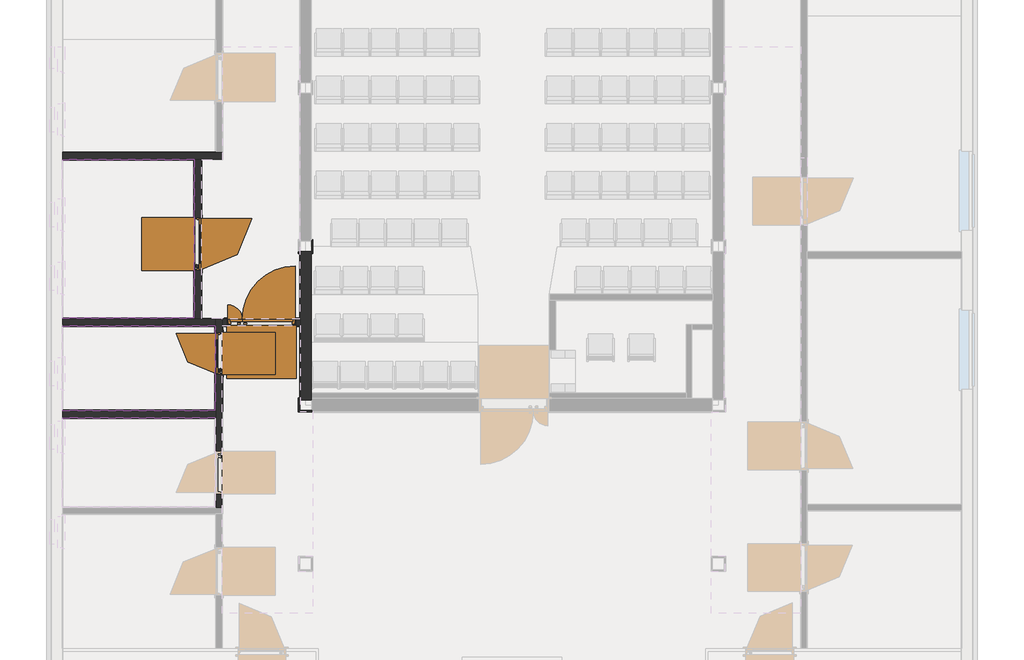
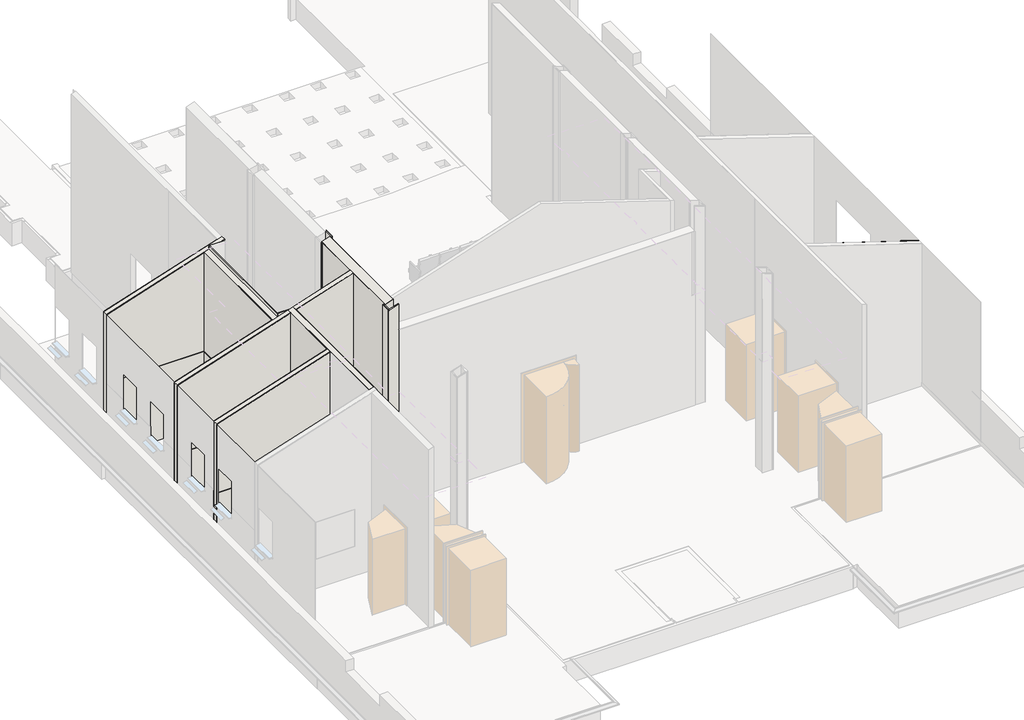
# One storey, part 4 of 12: 57 walls, 3 doors.
"""IFC4 building model written with IfcOpenShell, lengths in millimetres."""

from ifc_helpers import new_model, si_unit, frame, origin, origin_with_axes, place, context, project, spatial, polyline, outline, extrude, faceted_brep, transform, mapped, element, save
from components import door_607082e9, door_29457918, door_94be55c8

model = new_model("IFC4")

# Units and contexts
model_context = context("Model", 3, world=origin())
ifc_project = project(units=[si_unit("LENGTHUNIT", "METRE", prefix="MILLI")], contexts=[model_context])

# Site, building, storey
site = spatial("IfcSite", under=ifc_project)
building = spatial("IfcBuilding", under=site)
storey = spatial("IfcBuildingStorey", under=building, Name="Этаж 01", Elevation=0.0)

# Doors
placement = place(None, origin())
door_shape = door_607082e9(model_context)
element("IfcDoor", 1, ObjectType="Дверь_Деревянная_Внутренняя_Однопольная_ГОСТ_475-2016 : 0810 х 2070(h)_Л_с Порогом", at=placement, inside=storey, context=model_context, shape_type="MappedRepresentation", body=[
    mapped(door_shape, transform((2862.2198034, 9975.0, 0.0), x_axis=(0.0, 1.0, 0.0), y_axis=(-1.0, 0.0, 0.0), z_axis=(0.0, 0.0, 1.0))),
])
door_2_shape = door_29457918(model_context)
element("IfcDoor", 2, ObjectType="Дверь_Деревянная_Внутренняя_Однопольная_ГОСТ_475-2016 : 1010 х 2070(h)_Пр_с Порогом", at=placement, inside=storey, context=model_context, shape_type="MappedRepresentation", body=[
    mapped(door_2_shape, transform((2468.2165712, 12045.0, 0.0), x_axis=(0.0, -1.0, 0.0), y_axis=(1.0, 0.0, 0.0), z_axis=(0.0, 0.0, 1.0))),
])
door_3_shape = door_94be55c8(model_context)
element("IfcDoor", 3, ObjectType="Дверь_Деревянная_Внутренняя_Двупольная_ГОСТ_475-2016 : 1310 х 2370(h)_Л_с Порогом", at=placement, inside=storey, context=model_context, shape_type="MappedRepresentation", body=[
    mapped(door_3_shape, transform((3675.3948034, 10961.5, 0.0), x_axis=(-1.0, 0.0, 0.0), y_axis=(0.0, -1.0, 0.0), z_axis=(0.0, 0.0, 1.0))),
])

# Walls
element("IfcWall", 4, ObjectType="ADSK_Внутренняя_Кирпич_120", at=placement, inside=storey, context=model_context, shape_type="Brep", body=[
    faceted_brep([(2925.3948034, 7059.9969968, -25.0), (2925.3948034, 10630.0, -25.0), (2925.3948034, 10630.0, -20.0), (2925.3948034, 10630.0, 4831.1503758), (2925.3948034, 10505.0, 4831.1503758), (2925.3948034, 10504.0, 4831.1503758), (2925.3948034, 8875.0000003, 4831.1503758), (2925.3948034, 7059.9969968, 4831.1503758), (2925.3948034, 7059.9969968, -20.0), (2925.3948034, 10375.0, 2070.0), (2925.3948034, 10375.0, 0.0), (2925.3948034, 9575.0, 0.0), (2925.3948034, 9575.0, 2070.0), (2925.3948034, 8119.9998515, 2070.0), (2925.3948034, 8119.9998515, 0.0), (2925.3948034, 7319.9998515, 0.0), (2925.3948034, 7319.9998515, 2070.0), (2805.3948034, 10630.0, -25.0), (2805.3948034, 8890.0, -25.0), (2805.3948034, 8770.0, -25.0), (2805.3948034, 7059.9969968, -25.0), (2805.3948034, 7059.9969968, -20.0), (2805.3948034, 7059.9969968, 4792.1590792), (2805.3948034, 7072.1398515, 4792.1590792), (2805.3948034, 8770.0, 4792.1590792), (2805.3948034, 8890.0, 4792.1590792), (2805.3948034, 8902.0, 4792.1590792), (2805.3948034, 10510.0, 4792.1590792), (2805.3948034, 10630.0, 4792.1590792), (2805.3948034, 10630.0, -20.0), (2805.3948034, 10375.0, 0.0), (2805.3948034, 10375.0, 2070.0), (2805.3948034, 9575.0, 2070.0), (2805.3948034, 9575.0, 0.0), (2805.3948034, 8119.9998515, 0.0), (2805.3948034, 8119.9998515, 2070.0), (2805.3948034, 7319.9998515, 2070.0), (2805.3948034, 7319.9998515, 0.0)], [[[0, 1, 2, 3, 4, 5, 6, 7, 8], [9, 10, 11, 12], [13, 14, 15, 16]], [[17, 18, 19, 20, 21, 22, 23, 24, 25, 26, 27, 28, 29], [30, 31, 32, 33], [34, 35, 36, 37]], [[1, 0, 20, 19, 18, 17]], [[3, 2, 1, 17, 29, 28]], [[34, 14, 13, 35]], [[35, 13, 16, 36]], [[36, 16, 15, 37]], [[14, 34, 37, 15]], [[30, 10, 9, 31]], [[31, 9, 12, 32]], [[11, 33, 32, 12]], [[10, 30, 33, 11]], [[7, 6, 5, 4, 3, 28, 27, 26, 25, 24, 23, 22]], [[20, 0, 8, 7, 22, 21]]]),
])
element("IfcWall", 5, ObjectType="ADSK_Внутренняя_Кирпич_120", at=placement, inside=storey, context=model_context, shape_type="Brep", body=[
    faceted_brep([(-100.0, 10510.0, 100.0), (-92.0, 10510.0, 100.0), (-85.0, 10510.0, 100.0), (-85.0, 10510.0, -20.0), (2805.3948034, 10510.0, -20.0), (2805.3948034, 10510.0, 4792.1590792), (-100.0, 10510.0, 3848.1164919), (-100.0, 10510.0, 2000.0), (-85.0, 10630.0, 100.0), (-100.0, 10630.0, 100.0), (-100.0, 10630.0, 3848.1164919), (2405.0415712, 10630.0, 4662.0733157), (2525.0415712, 10630.0, 4701.0646123), (2805.3948034, 10630.0, 4792.1590792), (2805.3948034, 10630.0, -20.0), (-85.0, 10630.0, -20.0)], [[[0, 1, 2, 3, 4, 5, 6, 7]], [[8, 9, 10, 11, 12, 13, 14, 15]], [[13, 5, 4, 14]], [[9, 8, 2, 1, 0]], [[2, 8, 15, 3]], [[6, 5, 13, 12, 11, 10]], [[4, 3, 15, 14]], [[9, 0, 7, 6, 10]]]),
])
element("IfcWall", 6, ObjectType="ADSK_Внутренняя_Кирпич_120", at=placement, inside=storey, context=model_context, shape_type="Brep", body=[
    faceted_brep([(2525.0415712, 10630.0, -25.0), (2525.0415712, 13650.0024506, -25.0), (2525.0415712, 13650.0024506, 4701.0646123), (2525.0415712, 10630.0, 4701.0646123), (2525.0415712, 10630.0, 0.0), (2525.0415712, 11540.0, 0.0), (2525.0415712, 11540.0, 2070.0), (2525.0415712, 12550.0, 2070.0), (2525.0415712, 12550.0, 0.0), (2405.0415712, 13650.0024506, -25.0), (2405.0415712, 10630.0, -25.0), (2405.0415712, 10630.0, 4662.0733157), (2405.0415712, 10642.0, 4662.0733157), (2405.0415712, 13650.0024506, 4662.0733157), (2405.0415712, 13650.0024506, 0.0), (2405.0415712, 11540.0, 2070.0), (2405.0415712, 11540.0, 0.0), (2405.0415712, 12550.0, 0.0), (2405.0415712, 12550.0, 2070.0)], [[[0, 1, 2, 3, 4], [5, 6, 7, 8]], [[9, 10, 11, 12, 13, 14], [15, 16, 17, 18]], [[1, 0, 10, 9]], [[0, 4, 3, 11, 10]], [[2, 1, 9, 14, 13]], [[5, 16, 15, 6]], [[6, 15, 18, 7]], [[7, 18, 17, 8]], [[16, 5, 8, 17]], [[3, 2, 13, 12, 11]]]),
])
element("IfcWall", 7, ObjectType="ADSK_Внутренняя_Кирпич_120", at=placement, inside=storey, context=model_context, shape_type="Brep", body=[
    faceted_brep([(-100.0, 13650.0024506, 100.0), (-85.0, 13650.0024506, 100.0), (-85.0, 13650.0024506, -20.0), (2925.2572865, 13650.0024506, -20.0), (2925.2572865, 13650.0024506, 4831.1056928), (2525.0415712, 13650.0024506, 4701.0646123), (2405.0415712, 13650.0024506, 4662.0733157), (-100.0, 13650.0024506, 3848.1164919), (-85.0, 13770.0024506, 100.0), (-100.0, 13770.0024506, 100.0), (-100.0, 13770.0024506, 3848.1164919), (2805.2572865, 13770.0024506, 4792.1143962), (2925.2572865, 13770.0024506, 4831.1056928), (2925.2572865, 13770.0024506, -20.0), (2865.2572865, 13770.0024506, -20.0), (2865.2572865, 13770.0024506, -3.0), (2805.2572865, 13770.0024506, -3.0), (-85.0, 13770.0024506, -3.0), (-85.0, 13770.0024506, 0.0), (-85.0, 13710.0024506, -3.0), (-85.0, 13710.0024506, -20.0), (2865.2572865, 13710.0024506, -20.0), (2865.2572865, 13710.0024506, -3.0)], [[[0, 1, 2, 3, 4, 5, 6, 7]], [[8, 9, 10, 11, 12, 13, 14, 15, 16, 17, 18]], [[12, 4, 3, 13]], [[9, 8, 1, 0]], [[1, 8, 18, 17, 19, 20, 2]], [[7, 6, 5, 4, 12, 11, 10]], [[9, 0, 7, 10]], [[3, 2, 20, 21, 14, 13]], [[15, 22, 19, 17, 16]], [[21, 20, 19, 22]], [[22, 15, 14, 21]]]),
])
element("IfcWall", 8, ObjectType="ADSK_Внутренняя_Кирпич_120", at=placement, inside=storey, context=model_context, shape_type="Brep", body=[
    faceted_brep([(-100.0, 8770.0, 100.0), (-92.0, 8770.0, 100.0), (-85.0, 8770.0, 100.0), (-85.0, 8770.0, -20.0), (2805.3948034, 8770.0, -20.0), (2805.3948034, 8770.0, 4792.1590792), (-100.0, 8770.0, 3848.1164919), (-100.0, 8770.0, 2000.0), (-85.0, 8890.0, 100.0), (-100.0, 8890.0, 100.0), (-100.0, 8890.0, 2000.0), (-100.0, 8890.0, 3848.1164919), (2805.3948034, 8890.0, 4792.1590792), (2805.3948034, 8890.0, -20.0), (-85.0, 8890.0, -20.0)], [[[0, 1, 2, 3, 4, 5, 6, 7]], [[8, 9, 10, 11, 12, 13, 14]], [[12, 5, 4, 13]], [[9, 8, 2, 1, 0]], [[2, 8, 14, 3]], [[6, 5, 12, 11]], [[4, 3, 14, 13]], [[9, 0, 7, 6, 11, 10]]]),
])
element("IfcWall", 9, ObjectType="Перегородка-КНАУФ-С362-Применение внутри здания-125/75@600 ГВЛ(ГВЛВ)  12,5", at=placement, inside=storey, context=model_context, shape_type="Brep", body=[
    faceted_brep([(2925.3948034, 10505.0, -20.0), (4395.0630762, 10505.0, -20.0), (4395.0630762, 10505.0, 5308.6859716), (4394.0630762, 10505.0, 5308.3610442), (2925.3948034, 10505.0, 4831.1503758), (2925.3948034, 10505.0, 0.0), (3010.3948034, 10505.0, 0.0), (3010.3948034, 10505.0, 2370.0), (4320.3948034, 10505.0, 2370.0), (4320.3948034, 10505.0, 0.0), (4395.0630762, 10630.0, -20.0), (2925.3948034, 10630.0, -20.0), (2925.3948034, 10630.0, 0.0), (2925.3948034, 10630.0, 4831.1503758), (4395.0630762, 10630.0, 5308.6859716), (4395.0630762, 10630.0, 0.0), (3010.3948034, 10630.0, 2370.0), (3010.3948034, 10630.0, 0.0), (4320.3948034, 10630.0, 0.0), (4320.3948034, 10630.0, 2370.0)], [[[0, 1, 2, 3, 4, 5], [6, 7, 8, 9]], [[10, 11, 12, 13, 14, 15], [16, 17, 18, 19]], [[1, 0, 11, 10]], [[0, 5, 4, 13, 12, 11]], [[2, 1, 10, 15, 14]], [[6, 17, 16, 7]], [[7, 16, 19, 8]], [[8, 19, 18, 9]], [[17, 6, 9, 18]], [[4, 3, 2, 14, 13]]]),
])
element("IfcWall", 10, ObjectType="Перегородка-КНАУФ-С365-Применение внутри здания-200/75@600 ГВЛ(ГВЛВ)  12,5", at=placement, inside=storey, context=model_context, shape_type="Brep", body=[
    faceted_brep([(4395.0630762, 11900.0, -20.0), (4395.0630762, 10630.0, -20.0), (4395.0630762, 10505.0, -20.0), (4395.0630762, 9100.0, -20.0), (4395.0630762, 9100.0, 5308.6859716), (4395.0630762, 10505.0, 5308.6859716), (4395.0630762, 10630.0, 5308.6859716), (4395.0630762, 11900.0, 5308.6859716), (4605.0630762, 11900.0, 5376.9207407), (4605.0630762, 9225.0, 5376.9207407), (4605.0630762, 9125.0, 5376.9207407), (4605.0630762, 9100.0, 5376.9207407), (4605.0630762, 9100.0, -5.0), (4605.0630762, 11900.0, -5.0), (4500.0, 11900.0, -20.0), (4500.0, 9100.0, -20.0), (4500.0, 9100.0, -5.0), (4500.0, 11900.0, -5.0)], [[[0, 1, 2, 3, 4, 5, 6, 7]], [[8, 9, 10, 11, 12, 13]], [[3, 2, 1, 0, 14, 15]], [[4, 3, 15, 16, 12, 11]], [[0, 7, 8, 13, 17, 14]], [[7, 6, 5, 4, 11, 10, 9, 8]], [[16, 17, 13, 12]], [[17, 16, 15, 14]]]),
])
element("IfcWall", 11, ObjectType="Доска ДП-35", at=placement, inside=storey, context=model_context, shape_type="Brep", body=[
    faceted_brep([(7755.0, 9225.0, -5.0), (7755.0, 10167.4999997, -5.0), (7755.0, 10167.4999997, 325.0), (7755.0, 10184.9999997, 325.0), (7755.0, 10184.9999997, 505.0), (7755.0, 9225.0, 505.0), (7720.0, 9225.0, -5.0), (7720.0, 9225.0, 505.0), (7720.0, 10149.9999997, 505.0), (7720.0, 10184.9999997, 505.0), (7720.0, 10184.9999997, 325.0), (7720.0, 10167.4999997, 325.0), (7720.0, 10167.4999997, -5.0)], [[[0, 1, 2, 3, 4, 5]], [[6, 7, 8, 9, 10, 11, 12]], [[1, 0, 6, 12]], [[5, 4, 9, 8, 7]], [[2, 1, 12, 11]], [[10, 3, 2, 11]], [[4, 3, 10, 9]], [[0, 5, 7, 6]]]),
])
element("IfcWall", 12, ObjectType="Доска ДП-35", at=placement, inside=storey, context=model_context, shape_type="Brep", body=[
    faceted_brep([(7755.0, 11102.7675766, -5.0), (7607.4551117, 11999.9999997, -5.0), (7607.4551117, 11999.9999997, 145.0), (7755.0, 11102.7675766, 145.0), (7720.0, 11099.9089953, -5.0), (7720.0, 11099.9089953, 145.0), (7577.7405895, 11964.9999997, 145.0), (7571.9850339, 11999.9999997, 145.0), (7571.9850339, 11999.9999997, -5.0), (7577.7405895, 11964.9999997, -5.0)], [[[0, 1, 2, 3]], [[4, 5, 6, 7, 8, 9]], [[1, 0, 4, 9, 8]], [[3, 2, 7, 6, 5]], [[2, 1, 8, 7]], [[0, 3, 5, 4]]]),
])
element("IfcWall", 13, ObjectType="Доска ДП-35", at=placement, inside=storey, context=model_context, shape_type="SweptSolid", body=[
    extrude(outline(polyline([(4638.0630765, 11999.9999997), (7571.9850339, 11999.9999997), (7577.7405895, 11964.9999997), (4638.0630765, 11964.9999997), (4638.0630765, 11999.9999997)])), frame((0.0, 0.0, -5.0), z_axis=(0.0, 0.0, 1.0), x_axis=(1.0, 0.0, 0.0)), (0.0, 0.0, 1.0), 150.0),
])
element("IfcWall", 14, ObjectType="Доска ДП-35", at=placement, inside=storey, context=model_context, shape_type="SweptSolid", body=[
    extrude(outline(polyline([(4605.0630762, 11084.9999997), (7720.0, 11084.9999997), (7720.0, 11049.9999997), (4605.0630762, 11049.9999997), (4605.0630762, 11084.9999997)])), frame((0.0, 0.0, 180.0), z_axis=(0.0, 0.0, 1.0), x_axis=(1.0, 0.0, 0.0)), (0.0, 0.0, 1.0), 145.0),
])
element("IfcWall", 15, ObjectType="Доска ДП-35", at=placement, inside=storey, context=model_context, shape_type="Brep", body=[
    faceted_brep([(7720.0, 10184.9999997, 325.0), (4605.0630762, 10184.9999997, 325.0), (4605.0630762, 10184.9999997, 505.0), (7720.0, 10184.9999997, 505.0), (7720.0, 10149.9999997, 325.0), (7720.0, 10149.9999997, 505.0), (4605.0630762, 10149.9999997, 505.0), (4605.0630762, 10149.9999997, 325.0), (7720.0, 10167.4999997, 325.0)], [[[0, 1, 2, 3]], [[4, 5, 6, 7]], [[1, 0, 8, 4, 7]], [[3, 2, 6, 5]], [[0, 3, 5, 4, 8]], [[2, 1, 7, 6]]]),
])
element("IfcWall", 16, ObjectType="Доска ДП-35", at=placement, inside=storey, context=model_context, shape_type="Brep", body=[
    faceted_brep([(7755.0, 10167.4999997, -5.0), (7755.0, 11084.9999997, -5.0), (7755.0, 11084.9999997, 145.0), (7755.0, 11084.9999997, 325.0), (7755.0, 10184.9999997, 325.0), (7755.0, 10167.4999997, 325.0), (7720.0, 10167.4999997, -5.0), (7720.0, 10167.4999997, 325.0), (7720.0, 10184.9999997, 325.0), (7720.0, 11049.9999997, 325.0), (7720.0, 11084.9999997, 325.0), (7720.0, 11084.9999997, 180.0), (7720.0, 11084.9999997, 145.0), (7720.0, 11084.9999997, -5.0)], [[[0, 1, 2, 3, 4, 5]], [[6, 7, 8, 9, 10, 11, 12, 13]], [[1, 0, 6, 13]], [[3, 2, 1, 13, 12, 11, 10]], [[5, 4, 3, 10, 9, 8, 7]], [[0, 5, 7, 6]]]),
])
element("IfcWall", 17, ObjectType="Доска ДП-35", at=placement, inside=storey, context=model_context, shape_type="SweptSolid", body=[
    extrude(outline(polyline([(7720.0, 11099.9089953), (7755.0, 11102.7675766), (7755.0, 11084.9999997), (7720.0, 11084.9999997), (7720.0, 11099.9089953)])), frame((0.0, 0.0, -5.0), z_axis=(0.0, 0.0, 1.0), x_axis=(1.0, 0.0, 0.0)), (0.0, 0.0, 1.0), 150.0),
])
element("IfcWall", 18, ObjectType="Отделка - Акриловая покраска_1 мм_Улучш. штук. по кирп._9 мм", at=placement, inside=storey, context=model_context, shape_type="Brep", body=[
    faceted_brep([(-85.0, 13770.0024506, 0.0), (2805.2572865, 13770.0024506, 0.0), (2805.2572865, 13770.0024506, 4792.1143962), (-100.0, 13770.0024506, 3848.1164919), (-100.0, 13770.0024506, 100.0), (-85.0, 13770.0024506, 100.0), (1805.2572865, 13770.0024506, 1800.0), (2795.2572865, 13770.0024506, 1800.0), (2795.2572865, 13770.0024506, 800.0), (1805.2572865, 13770.0024506, 800.0), (-85.0, 13780.0024506, 0.0), (-85.0, 13780.0024506, 100.0), (-99.0, 13780.0024506, 100.0), (-100.0, 13780.0024506, 100.0), (-100.0, 13780.0024506, 3848.1164919), (-99.0, 13780.0024506, 3848.4414193), (2795.2572865, 13780.0024506, 4788.8651214), (2805.2572865, 13780.0024506, 4792.1143962), (2805.2572865, 13780.0024506, 0.0), (2795.2572865, 13780.0024506, 0.0), (1805.2572865, 13780.0024506, 1800.0), (1805.2572865, 13780.0024506, 800.0), (2795.2572865, 13780.0024506, 800.0), (2795.2572865, 13780.0024506, 1800.0), (1805.2572865, 13778.0024506, 1800.0), (1805.2572865, 13778.0024506, 800.0)], [[[0, 1, 2, 3, 4, 5], [6, 7, 8, 9]], [[10, 11, 12, 13, 14, 15, 16, 17, 18, 19], [20, 21, 22, 23]], [[2, 1, 18, 17]], [[0, 5, 11, 10]], [[3, 14, 13, 4]], [[3, 2, 17, 16, 15, 14]], [[1, 0, 10, 19, 18]], [[4, 13, 12, 11, 5]], [[7, 6, 24, 20, 23]], [[9, 8, 22, 21, 25]], [[6, 9, 25, 21, 20, 24]], [[8, 7, 23, 22]]]),
])
element("IfcWall", 19, ObjectType="Отделка - Улучш. штук. по кирп._12 мм", at=placement, inside=storey, context=model_context, shape_type="Brep", body=[
    faceted_brep([(-100.0, 10630.0, 0.0), (2405.0415712, 10630.0, 0.0), (2405.0415712, 10630.0, 4662.0733157), (-100.0, 10630.0, 3848.1164919), (-100.0, 10642.0, 0.0), (-100.0, 10642.0, 100.0), (-100.0, 10642.0, 2000.0), (-100.0, 10642.0, 3848.1164919), (-99.0, 10642.0, 3848.4414193), (2393.0415712, 10642.0, 4658.1741861), (2405.0415712, 10642.0, 4662.0733157), (2405.0415712, 10642.0, 0.0), (2393.0415712, 10642.0, 0.0)], [[[0, 1, 2, 3]], [[4, 5, 6, 7, 8, 9, 10, 11, 12]], [[1, 0, 4, 12, 11]], [[0, 3, 7, 6, 5, 4]], [[2, 1, 11, 10]], [[3, 2, 10, 9, 8, 7]]]),
])
element("IfcWall", 20, ObjectType="Отделка - Улучш. штук. по кирп._12 мм", at=placement, inside=storey, context=model_context, shape_type="Brep", body=[
    faceted_brep([(2405.0415712, 13650.0024506, 0.0), (2405.0415712, 13650.0024506, 4662.0733157), (2405.0415712, 10642.0, 4662.0733157), (2405.0415712, 10642.0, 0.0), (2405.0415712, 11540.0, 0.0), (2405.0415712, 11540.0, 2070.0), (2405.0415712, 12550.0, 2070.0), (2405.0415712, 12550.0, 0.0), (2393.0415712, 13650.0024506, 4658.1741861), (2393.0415712, 13650.0024506, 0.0), (2393.0415712, 13638.0024506, 0.0), (2393.0415712, 13630.0024506, 0.0), (2393.0415712, 12591.35, 0.0), (2393.0415712, 12550.0, 0.0), (2393.0415712, 12550.0, 2000.0), (2393.0415712, 12550.0, 2070.0), (2393.0415712, 11540.0, 2070.0), (2393.0415712, 11540.0, 2000.0), (2393.0415712, 11540.0, 0.0), (2393.0415712, 11488.65, 0.0), (2393.0415712, 10642.0, 0.0), (2393.0415712, 10642.0, 2000.0), (2393.0415712, 10642.0, 4658.1741861), (2393.0415712, 13637.0024506, 4658.1741861), (2393.0415712, 13638.0024506, 4658.1741861)], [[[0, 1, 2, 3, 4, 5, 6, 7]], [[8, 9, 10, 11, 12, 13, 14, 15, 16, 17, 18, 19, 20, 21, 22, 23, 24]], [[9, 0, 7, 13, 12, 11, 10]], [[3, 20, 19, 18, 4]], [[1, 0, 9, 8]], [[3, 2, 22, 21, 20]], [[16, 5, 4, 18, 17]], [[5, 16, 15, 6]], [[6, 15, 14, 13, 7]], [[2, 1, 8, 24, 23, 22]]]),
])
element("IfcWall", 21, ObjectType="Отделка - Улучш. штук. по кирп._12 мм", at=placement, inside=storey, context=model_context, shape_type="Brep", body=[
    faceted_brep([(2393.0415712, 13650.0024506, 0.0), (-100.0, 13650.0024506, 0.0), (-100.0, 13650.0024506, 3848.1164919), (2393.0415712, 13650.0024506, 4658.1741861), (2393.0415712, 13638.0024506, 0.0), (2393.0415712, 13638.0024506, 4658.1741861), (-99.0, 13638.0024506, 3848.4414193), (-100.0, 13638.0024506, 3848.1164919), (-100.0, 13638.0024506, 2000.0), (-100.0, 13638.0024506, 0.0)], [[[0, 1, 2, 3]], [[4, 5, 6, 7, 8, 9]], [[1, 0, 4, 9]], [[2, 1, 9, 8, 7]], [[0, 3, 5, 4]], [[3, 2, 7, 6, 5]]]),
])
element("IfcWall", 22, ObjectType="Отделка - Керамическая плитка h=2 м", at=placement, inside=storey, context=model_context, shape_type="Brep", body=[
    faceted_brep([(2393.0415712, 13638.0024506, 0.0), (-85.0, 13638.0024506, 0.0), (-85.0, 13638.0024506, 100.0), (-100.0, 13638.0024506, 100.0), (-100.0, 13638.0024506, 2000.0), (2393.0415712, 13638.0024506, 2000.0), (2393.0415712, 13630.0024506, 0.0), (2393.0415712, 13630.0024506, 2000.0), (2385.0415712, 13630.0024506, 2000.0), (-100.0, 13630.0024506, 2000.0), (-100.0, 13630.0024506, 100.0), (-85.0, 13630.0024506, 100.0), (-85.0, 13630.0024506, 0.0), (2385.0415712, 13630.0024506, 0.0), (2393.0415712, 13637.0024506, 2000.0)], [[[0, 1, 2, 3, 4, 5]], [[6, 7, 8, 9, 10, 11, 12, 13]], [[1, 0, 6, 13, 12]], [[5, 4, 9, 8, 7, 14]], [[10, 3, 2, 11]], [[2, 1, 12, 11]], [[3, 10, 9, 4]], [[0, 5, 14, 7, 6]]]),
])
element("IfcWall", 23, ObjectType="Отделка - Керамическая плитка h=2 м", at=placement, inside=storey, context=model_context, shape_type="Brep", body=[
    faceted_brep([(2393.0415712, 13630.0024506, 2000.0), (2393.0415712, 12591.35, 2000.0), (2393.0415712, 12591.35, 0.0), (2393.0415712, 13630.0024506, 0.0), (2385.0415712, 12591.35, 2000.0), (2385.0415712, 13630.0024506, 2000.0), (2385.0415712, 13630.0024506, 0.0), (2385.0415712, 12591.35, 0.0)], [[[0, 1, 2, 3]], [[4, 5, 6, 7]], [[0, 3, 6, 5]], [[1, 0, 5, 4]], [[2, 1, 4, 7]], [[3, 2, 7, 6]]]),
    faceted_brep([(2393.0415712, 10642.0, 0.0), (2393.0415712, 11488.65, 0.0), (2393.0415712, 11488.65, 2000.0), (2393.0415712, 10642.0, 2000.0), (2385.0415712, 11488.65, 0.0), (2385.0415712, 10650.0, 0.0), (2385.0415712, 10642.0, 0.0), (2385.0415712, 10642.0, 2000.0), (2385.0415712, 10650.0, 2000.0), (2385.0415712, 11488.65, 2000.0), (2392.0415712, 10642.0, 2000.0)], [[[0, 1, 2, 3]], [[4, 5, 6, 7, 8, 9]], [[0, 3, 10, 7, 6]], [[1, 0, 6, 5, 4]], [[2, 1, 4, 9]], [[3, 2, 9, 8, 7, 10]]]),
])
element("IfcWall", 24, ObjectType="Отделка - Керамическая плитка h=2 м", at=placement, inside=storey, context=model_context, shape_type="SweptSolid", body=[
    extrude(outline(polyline([(0.0, -85.0), (0.0, 2385.0415712), (2000.0, 2385.0415712), (2000.0, -100.0), (100.0, -100.0), (100.0, -85.0), (0.0, -85.0)])), frame((0.0, 10642.0, 0.0), z_axis=(0.0, 1.0, 0.0), x_axis=(0.0, 0.0, 1.0)), (0.0, 0.0, 1.0), 8.0),
])
element("IfcWall", 25, ObjectType="Отделка - Акриловая покраска_1 мм", at=placement, inside=storey, context=model_context, shape_type="Brep", body=[
    faceted_brep([(2393.0415712, 13638.0024506, 2000.0), (-100.0, 13638.0024506, 2000.0), (-100.0, 13638.0024506, 3848.1164919), (2393.0415712, 13638.0024506, 4658.1741861), (2393.0415712, 13637.0024506, 2000.0), (2393.0415712, 13637.0024506, 4658.1741861), (2392.0415712, 13637.0024506, 4657.8492586), (-100.0, 13637.0024506, 3848.1164919), (-100.0, 13637.0024506, 2000.0), (2392.0415712, 13637.0024506, 2000.0)], [[[0, 1, 2, 3]], [[4, 5, 6, 7, 8, 9]], [[1, 0, 4, 9, 8]], [[0, 3, 5, 4]], [[2, 1, 8, 7]], [[3, 2, 7, 6, 5]]]),
])
element("IfcWall", 26, ObjectType="Отделка - Акриловая покраска_1 мм", at=placement, inside=storey, context=model_context, shape_type="Brep", body=[
    faceted_brep([(2393.0415712, 13637.0024506, 2000.0), (2393.0415712, 13637.0024506, 4658.1741861), (2393.0415712, 10642.0, 4658.1741861), (2393.0415712, 10642.0, 2000.0), (2393.0415712, 11540.0, 2000.0), (2393.0415712, 11540.0, 2070.0), (2393.0415712, 12550.0, 2070.0), (2393.0415712, 12550.0, 2000.0), (2393.0415712, 13630.0024506, 2000.0), (2392.0415712, 13637.0024506, 4657.8492586), (2392.0415712, 13637.0024506, 2000.0), (2392.0415712, 12550.0, 2000.0), (2392.0415712, 12550.0, 2070.0), (2392.0415712, 11540.0, 2070.0), (2392.0415712, 11540.0, 2000.0), (2392.0415712, 10643.0, 2000.0), (2392.0415712, 10642.0, 2000.0), (2392.0415712, 10642.0, 4657.8492586), (2392.0415712, 10643.0, 4657.8492586)], [[[0, 1, 2, 3, 4, 5, 6, 7, 8]], [[9, 10, 11, 12, 13, 14, 15, 16, 17, 18]], [[10, 0, 8, 7, 11]], [[3, 16, 15, 14, 4]], [[1, 0, 10, 9]], [[3, 2, 17, 16]], [[13, 5, 4, 14]], [[5, 13, 12, 6]], [[6, 12, 11, 7]], [[2, 1, 9, 18, 17]]]),
])
element("IfcWall", 27, ObjectType="Отделка - Акриловая покраска_1 мм", at=placement, inside=storey, context=model_context, shape_type="Brep", body=[
    faceted_brep([(-100.0, 10642.0, 2000.0), (2385.0415712, 10642.0, 2000.0), (2392.0415712, 10642.0, 2000.0), (2392.0415712, 10642.0, 4657.8492586), (-100.0, 10642.0, 3848.1164919), (-100.0, 10643.0, 2000.0), (-100.0, 10643.0, 3848.1164919), (2392.0415712, 10643.0, 4657.8492586), (2392.0415712, 10643.0, 2000.0)], [[[0, 1, 2, 3, 4]], [[5, 6, 7, 8]], [[2, 1, 0, 5, 8]], [[3, 2, 8, 7]], [[0, 4, 6, 5]], [[4, 3, 7, 6]]]),
])
element("IfcWall", 28, ObjectType="Отделка - Улучш. штук. по кирп._12 мм", at=placement, inside=storey, context=model_context, shape_type="Brep", body=[
    faceted_brep([(-85.0, 8890.0, 0.0), (2805.3948034, 8890.0, 0.0), (2805.3948034, 8890.0, 4792.1590792), (-100.0, 8890.0, 3848.1164919), (-100.0, 8890.0, 100.0), (-85.0, 8890.0, 100.0), (-85.0, 8902.0, 0.0), (-85.0, 8902.0, 100.0), (-100.0, 8902.0, 100.0), (-100.0, 8902.0, 3848.1164919), (2793.3948034, 8902.0, 4788.2599495), (2805.3948034, 8902.0, 4792.1590792), (2805.3948034, 8902.0, 0.0), (2793.3948034, 8902.0, 0.0)], [[[0, 1, 2, 3, 4, 5]], [[6, 7, 8, 9, 10, 11, 12, 13]], [[1, 0, 6, 13, 12]], [[2, 1, 12, 11]], [[4, 8, 7, 5]], [[0, 5, 7, 6]], [[3, 9, 8, 4]], [[3, 2, 11, 10, 9]]]),
])
element("IfcWall", 29, ObjectType="Отделка - Улучш. штук. по кирп._12 мм", at=placement, inside=storey, context=model_context, shape_type="Brep", body=[
    faceted_brep([(2805.3948034, 10510.0, 0.0), (2805.3948034, 10510.0, 4792.1590792), (2805.3948034, 8902.0, 4792.1590792), (2805.3948034, 8902.0, 0.0), (2805.3948034, 9575.0, 0.0), (2805.3948034, 9575.0, 2070.0), (2805.3948034, 10375.0, 2070.0), (2805.3948034, 10375.0, 0.0), (2793.3948034, 10510.0, 4788.2599495), (2793.3948034, 10510.0, 0.0), (2793.3948034, 10498.0, 0.0), (2793.3948034, 10490.0, 0.0), (2793.3948034, 10421.35, 0.0), (2793.3948034, 10375.0, 0.0), (2793.3948034, 10375.0, 2000.0), (2793.3948034, 10375.0, 2070.0), (2793.3948034, 9575.0, 2070.0), (2793.3948034, 9575.0, 2000.0), (2793.3948034, 9575.0, 0.0), (2793.3948034, 9528.65, 0.0), (2793.3948034, 8910.0, 0.0), (2793.3948034, 8902.0, 0.0), (2793.3948034, 8902.0, 2000.0), (2793.3948034, 8902.0, 4788.2599495), (2793.3948034, 10497.0, 4788.2599495), (2793.3948034, 10498.0, 4788.2599495)], [[[0, 1, 2, 3, 4, 5, 6, 7]], [[8, 9, 10, 11, 12, 13, 14, 15, 16, 17, 18, 19, 20, 21, 22, 23, 24, 25]], [[9, 0, 7, 13, 12, 11, 10]], [[3, 21, 20, 19, 18, 4]], [[1, 0, 9, 8]], [[3, 2, 23, 22, 21]], [[6, 15, 14, 13, 7]], [[15, 6, 5, 16]], [[16, 5, 4, 18, 17]], [[2, 1, 8, 25, 24, 23]]]),
])
element("IfcWall", 30, ObjectType="Отделка - Улучш. штук. по кирп._12 мм", at=placement, inside=storey, context=model_context, shape_type="SweptSolid", body=[
    extrude(outline(polyline([(0.0, 2793.3948034), (4788.2599495, 2793.3948034), (3848.1164919, -100.0), (100.0, -100.0), (100.0, -85.0), (0.0, -85.0), (0.0, 2793.3948034)])), frame((0.0, 10498.0, 0.0), z_axis=(0.0, 1.0, 0.0), x_axis=(0.0, 0.0, 1.0)), (0.0, 0.0, 1.0), 12.0),
])
element("IfcWall", 31, ObjectType="Отделка - Керамическая плитка h=2 м", at=placement, inside=storey, context=model_context, shape_type="Brep", body=[
    faceted_brep([(2793.3948034, 10498.0, 0.0), (-85.0, 10498.0, 0.0), (-85.0, 10498.0, 2000.0), (2793.3948034, 10498.0, 2000.0), (2793.3948034, 10490.0, 0.0), (2793.3948034, 10490.0, 2000.0), (2785.3948034, 10490.0, 2000.0), (-85.0, 10490.0, 2000.0), (-85.0, 10490.0, 0.0), (2785.3948034, 10490.0, 0.0), (2793.3948034, 10497.0, 2000.0)], [[[0, 1, 2, 3]], [[4, 5, 6, 7, 8, 9]], [[1, 0, 4, 9, 8]], [[3, 2, 7, 6, 5, 10]], [[0, 3, 10, 5, 4]], [[2, 1, 8, 7]]]),
])
element("IfcWall", 32, ObjectType="Отделка - Керамическая плитка h=2 м", at=placement, inside=storey, context=model_context, shape_type="SweptSolid", body=[
    extrude(outline(polyline([(2793.3948034, 10490.0), (2793.3948034, 10421.35), (2785.3948034, 10421.35), (2785.3948034, 10490.0), (2793.3948034, 10490.0)])), origin_with_axes(), (0.0, 0.0, 1.0), 2000.0),
    extrude(outline(polyline([(2793.3948034, 9528.65), (2793.3948034, 8910.0), (2785.3948034, 8910.0), (2785.3948034, 9528.65), (2793.3948034, 9528.65)])), origin_with_axes(), (0.0, 0.0, 1.0), 2000.0),
])
element("IfcWall", 33, ObjectType="Отделка - Керамическая плитка h=2 м", at=placement, inside=storey, context=model_context, shape_type="Brep", body=[
    faceted_brep([(-85.0, 8902.0, 0.0), (2793.3948034, 8902.0, 0.0), (2793.3948034, 8902.0, 2000.0), (-100.0, 8902.0, 2000.0), (-100.0, 8902.0, 100.0), (-85.0, 8902.0, 100.0), (-85.0, 8910.0, 0.0), (-85.0, 8910.0, 100.0), (-92.0, 8910.0, 100.0), (-100.0, 8910.0, 100.0), (-100.0, 8910.0, 2000.0), (-92.0, 8910.0, 2000.0), (2785.3948034, 8910.0, 2000.0), (2793.3948034, 8910.0, 2000.0), (2793.3948034, 8910.0, 0.0), (2785.3948034, 8910.0, 0.0)], [[[0, 1, 2, 3, 4, 5]], [[6, 7, 8, 9, 10, 11, 12, 13, 14, 15]], [[1, 0, 6, 15, 14]], [[3, 2, 13, 12, 11, 10]], [[2, 1, 14, 13]], [[4, 9, 8, 7, 5]], [[0, 5, 7, 6]], [[3, 10, 9, 4]]]),
])
element("IfcWall", 34, ObjectType="Отделка - Акриловая покраска_1 мм", at=placement, inside=storey, context=model_context, shape_type="Brep", body=[
    faceted_brep([(2793.3948034, 10498.0, 2000.0), (-99.5, 10498.0, 2000.0), (-99.5, 10498.0, 3848.2789556), (2793.3948034, 10498.0, 4788.2599495), (2793.3948034, 10497.0, 2000.0), (2793.3948034, 10497.0, 4788.2599495), (2792.3948034, 10497.0, 4787.935022), (-99.5, 10497.0, 3848.2789556), (-99.5, 10497.0, 2000.0), (2792.3948034, 10497.0, 2000.0)], [[[0, 1, 2, 3]], [[4, 5, 6, 7, 8, 9]], [[1, 0, 4, 9, 8]], [[2, 1, 8, 7]], [[0, 3, 5, 4]], [[3, 2, 7, 6, 5]]]),
])
element("IfcWall", 35, ObjectType="Отделка - Акриловая покраска_1 мм", at=placement, inside=storey, context=model_context, shape_type="Brep", body=[
    faceted_brep([(2793.3948034, 10497.0, 2000.0), (2793.3948034, 10497.0, 4788.2599495), (2793.3948034, 8902.0, 4788.2599495), (2793.3948034, 8902.0, 2000.0), (2793.3948034, 9575.0, 2000.0), (2793.3948034, 9575.0, 2070.0), (2793.3948034, 10375.0, 2070.0), (2793.3948034, 10375.0, 2000.0), (2793.3948034, 10490.0, 2000.0), (2792.3948034, 10497.0, 4787.935022), (2792.3948034, 10497.0, 2000.0), (2792.3948034, 10375.0, 2000.0), (2792.3948034, 10375.0, 2070.0), (2792.3948034, 9575.0, 2070.0), (2792.3948034, 9575.0, 2000.0), (2792.3948034, 8903.0, 2000.0), (2792.3948034, 8902.0, 2000.0), (2792.3948034, 8902.0, 4787.935022), (2792.3948034, 8903.0, 4787.935022)], [[[0, 1, 2, 3, 4, 5, 6, 7, 8]], [[9, 10, 11, 12, 13, 14, 15, 16, 17, 18]], [[3, 16, 15, 14, 4]], [[10, 0, 8, 7, 11]], [[1, 0, 10, 9]], [[3, 2, 17, 16]], [[6, 12, 11, 7]], [[12, 6, 5, 13]], [[13, 5, 4, 14]], [[2, 1, 9, 18, 17]]]),
])
element("IfcWall", 36, ObjectType="Отделка - Акриловая покраска_1 мм", at=placement, inside=storey, context=model_context, shape_type="SweptSolid", body=[
    extrude(outline(polyline([(2000.0, -99.0), (2000.0, 2792.3948034), (4787.935022, 2792.3948034), (3848.4414193, -99.0), (2000.0, -99.0)])), frame((0.0, 8902.0, 0.0), z_axis=(0.0, 1.0, 0.0), x_axis=(0.0, 0.0, 1.0)), (0.0, 0.0, 1.0), 1.0),
])
element("IfcWall", 37, ObjectType="Отделка - Улучш. штук. по кирп._12 мм", at=placement, inside=storey, context=model_context, shape_type="SweptSolid", body=[
    extrude(outline(polyline([(0.0, 2793.3948034), (4788.2599495, 2793.3948034), (3848.1164919, -100.0), (0.0, -100.0), (0.0, 2793.3948034)])), frame((0.0, 8758.0, 0.0), z_axis=(0.0, 1.0, 0.0), x_axis=(0.0, 0.0, 1.0)), (0.0, 0.0, 1.0), 12.0),
])
element("IfcWall", 38, ObjectType="Отделка - Керамическая плитка h=2 м", at=placement, inside=storey, context=model_context, shape_type="Brep", body=[
    faceted_brep([(2793.3948034, 8758.0, 0.0), (-85.0, 8758.0, 0.0), (-85.0, 8758.0, 2000.0), (2793.3948034, 8758.0, 2000.0), (2793.3948034, 8750.0, 0.0), (2793.3948034, 8750.0, 2000.0), (2785.3948034, 8750.0, 2000.0), (-85.0, 8750.0, 2000.0), (-85.0, 8750.0, 0.0), (2785.3948034, 8750.0, 0.0), (2793.3948034, 8757.0, 2000.0)], [[[0, 1, 2, 3]], [[4, 5, 6, 7, 8, 9]], [[1, 0, 4, 9, 8]], [[3, 2, 7, 6, 5, 10]], [[0, 3, 10, 5, 4]], [[2, 1, 8, 7]]]),
])
element("IfcWall", 39, ObjectType="Отделка - Акриловая покраска_1 мм", at=placement, inside=storey, context=model_context, shape_type="Brep", body=[
    faceted_brep([(2793.3948034, 8758.0, 2000.0), (-99.0, 8758.0, 2000.0), (-99.0, 8758.0, 3848.4414193), (2793.3948034, 8758.0, 4788.2599495), (2793.3948034, 8757.0, 2000.0), (2793.3948034, 8757.0, 4788.2599495), (2792.3948034, 8757.0, 4787.935022), (-99.0, 8757.0, 3848.4414193), (-99.0, 8757.0, 2000.0), (2792.3948034, 8757.0, 2000.0)], [[[0, 1, 2, 3]], [[4, 5, 6, 7, 8, 9]], [[1, 0, 4, 9, 8]], [[0, 3, 5, 4]], [[2, 1, 8, 7]], [[3, 2, 7, 6, 5]]]),
])
element("IfcWall", 40, ObjectType="Отделка - Акриловая покраска_1 мм_Улучш. штук. по кирп._9 мм", at=placement, inside=storey, context=model_context, shape_type="Brep", body=[
    faceted_brep([(2525.0415712, 10630.0, 4792.1143962), (2525.0415712, 13640.0024506, 4792.1143962), (2525.0415712, 13640.0024506, 0.0), (2525.0415712, 12550.0, 0.0), (2525.0415712, 12550.0, 2070.0), (2525.0415712, 11540.0, 2070.0), (2525.0415712, 11540.0, 0.0), (2525.0415712, 10630.0, 0.0), (2525.0415712, 10630.0, 4701.0646123), (2535.0415712, 13640.0024506, 4792.1143962), (2535.0415712, 10640.0, 4792.1143962), (2535.0415712, 10630.0, 4792.1143962), (2535.0415712, 10630.0, 0.0), (2535.0415712, 10640.0, 0.0), (2535.0415712, 11540.0, 0.0), (2535.0415712, 11540.0, 2070.0), (2535.0415712, 12550.0, 2070.0), (2535.0415712, 12550.0, 0.0), (2535.0415712, 13640.0024506, 0.0)], [[[0, 1, 2, 3, 4, 5, 6, 7, 8]], [[9, 10, 11, 12, 13, 14, 15, 16, 17, 18]], [[12, 7, 6, 14, 13]], [[2, 18, 17, 3]], [[1, 0, 11, 10, 9]], [[0, 8, 7, 12, 11]], [[2, 1, 9, 18]], [[5, 15, 14, 6]], [[15, 5, 4, 16]], [[16, 4, 3, 17]]]),
])
element("IfcWall", 41, ObjectType="Отделка - Акриловая покраска_1 мм_Улучш. штук. по кирп._9 мм", at=placement, inside=storey, context=model_context, shape_type="Brep", body=[
    faceted_brep([(2535.0415712, 10630.0, 0.0), (2925.3948034, 10630.0, 0.0), (2925.3948034, 10630.0, 4792.1143962), (2535.0415712, 10630.0, 4792.1143962), (2535.0415712, 10640.0, 0.0), (2535.0415712, 10640.0, 4792.1143962), (2925.3948034, 10640.0, 4792.1143962), (2925.3948034, 10640.0, 0.0), (2925.3948034, 10631.0, 0.0)], [[[0, 1, 2, 3]], [[4, 5, 6, 7]], [[1, 0, 4, 7, 8]], [[2, 1, 8, 7, 6]], [[3, 2, 6, 5]], [[0, 3, 5, 4]]]),
])
element("IfcWall", 42, ObjectType="Отделка - Акриловая покраска по Кнауф-суперлистам_1 мм", at=placement, inside=storey, context=model_context, shape_type="Brep", body=[
    faceted_brep([(2925.3948034, 10630.0, 4831.1503758), (2925.3948034, 10630.0, 4792.1143962), (2925.3948034, 10630.0, 0.0), (3010.3948034, 10630.0, 0.0), (3010.3948034, 10630.0, 2370.0), (4320.3948034, 10630.0, 2370.0), (4320.3948034, 10630.0, 0.0), (4395.0630762, 10630.0, 0.0), (4395.0630762, 10630.0, 5308.6859716), (2925.3948034, 10631.0, 0.0), (2925.3948034, 10631.0, 4831.1503758), (4394.0630762, 10631.0, 5308.3610442), (4395.0630762, 10631.0, 5308.6859716), (4395.0630762, 10631.0, 0.0), (4394.0630762, 10631.0, 0.0), (4320.3948034, 10631.0, 0.0), (4320.3948034, 10631.0, 2370.0), (3010.3948034, 10631.0, 2370.0), (3010.3948034, 10631.0, 0.0)], [[[0, 1, 2, 3, 4, 5, 6, 7, 8]], [[9, 10, 11, 12, 13, 14, 15, 16, 17, 18]], [[2, 9, 18, 3]], [[13, 7, 6, 15, 14]], [[2, 1, 0, 10, 9]], [[17, 4, 3, 18]], [[4, 17, 16, 5]], [[5, 16, 15, 6]], [[0, 8, 12, 11, 10]], [[8, 7, 13, 12]]]),
])
element("IfcWall", 43, ObjectType="Отделка - Акриловая покраска по Кнауф-суперлистам_1 мм", at=placement, inside=storey, context=model_context, shape_type="Brep", body=[
    faceted_brep([(4395.0630762, 10631.0, 0.0), (4395.0630762, 11867.5, 0.0), (4395.0630762, 11867.5, 5308.6859716), (4395.0630762, 10631.0, 5308.6859716), (4394.0630762, 10631.0, 0.0), (4394.0630762, 10631.0, 5308.3610442), (4394.0630762, 11866.5, 5308.3610442), (4394.0630762, 11867.5, 5308.3610442), (4394.0630762, 11867.5, 0.0), (4394.0630762, 11866.5, 0.0)], [[[0, 1, 2, 3]], [[4, 5, 6, 7, 8, 9]], [[1, 0, 4, 9, 8]], [[3, 2, 7, 6, 5]], [[2, 1, 8, 7]], [[0, 3, 5, 4]]]),
])
element("IfcWall", 44, ObjectType="Отделка - Акриловая покраска по Кнауф-суперлистам_1 мм", at=placement, inside=storey, context=model_context, shape_type="Brep", body=[
    faceted_brep([(13981.0, 7125.0, 0.0), (16885.0, 7125.0, 0.0), (16885.0, 7125.0, 100.0), (16900.0, 7125.0, 100.0), (16900.0, 7125.0, 3848.1164919), (13981.0, 7125.0, 4796.5797813), (13981.0, 7126.0, 0.0), (13981.0, 7126.0, 4796.5797813), (16900.0, 7126.0, 3848.1164919), (16900.0, 7126.0, 100.0), (16899.0, 7126.0, 100.0), (16885.0, 7126.0, 100.0), (16885.0, 7126.0, 0.0)], [[[0, 1, 2, 3, 4, 5]], [[6, 7, 8, 9, 10, 11, 12]], [[1, 0, 6, 12]], [[9, 3, 2, 11, 10]], [[2, 1, 12, 11]], [[3, 9, 8, 4]], [[5, 4, 8, 7]], [[0, 5, 7, 6]]]),
])
element("IfcWall", 45, ObjectType="Облицовка КНАУФ 12,5", at=placement, inside=storey, context=model_context, shape_type="Brep", body=[
    faceted_brep([(4362.0630759, 11867.5, 0.0), (4395.0630762, 11867.5, 0.0), (4395.0630762, 11867.5, 5308.6859716), (4362.0630759, 11867.5, 5297.963365), (4362.0630759, 11892.5, 0.0), (4362.0630759, 11892.5, 5297.963365), (4387.0630759, 11892.5, 5306.0865518), (4395.0630762, 11892.5, 5308.6859716), (4395.0630762, 11892.5, 0.0), (4387.0630759, 11892.5, 0.0)], [[[0, 1, 2, 3]], [[4, 5, 6, 7, 8, 9]], [[1, 0, 4, 9, 8]], [[2, 1, 8, 7]], [[0, 3, 5, 4]], [[3, 2, 7, 6, 5]]]),
])
element("IfcWall", 46, ObjectType="Облицовка КНАУФ 12,5", at=placement, inside=storey, context=model_context, shape_type="Brep", body=[
    faceted_brep([(4613.0630765, 12107.5, 0.0), (4613.0630765, 11892.5, 0.0), (4613.0630765, 11867.5, 0.0), (4613.0630765, 11867.5, 5379.5201605), (4613.0630765, 11892.5, 5379.5201605), (4613.0630765, 12107.5, 5379.5201605), (4638.0630765, 12107.5, 0.0), (4638.0630765, 12107.5, 5387.6433473), (4638.0630765, 11867.5, 5387.6433473), (4638.0630765, 11867.5, 0.0)], [[[0, 1, 2, 3, 4, 5]], [[6, 7, 8, 9]], [[2, 1, 0, 6, 9]], [[3, 2, 9, 8]], [[0, 5, 7, 6]], [[5, 4, 3, 8, 7]]]),
])
element("IfcWall", 47, ObjectType="Облицовка КНАУФ 12,5", at=placement, inside=storey, context=model_context, shape_type="SweptSolid", body=[
    extrude(outline(polyline([(0.0, 4613.0630765), (5379.5201605, 4613.0630765), (5376.9207407, 4605.0630762), (0.0, 4605.0630762), (0.0, 4613.0630765)])), frame((0.0, 11867.5, 0.0), z_axis=(0.0, 1.0, 0.0), x_axis=(0.0, 0.0, 1.0)), (0.0, 0.0, 1.0), 25.0),
])
element("IfcWall", 48, ObjectType="Облицовка КНАУФ 12,5", at=placement, inside=storey, context=model_context, shape_type="Brep", body=[
    faceted_brep([(4395.0630762, 9132.0, 0.0), (4362.5630762, 9132.0, 0.0), (4362.5630762, 9132.0, 5298.1258288), (4395.0630762, 9132.0, 5308.6859716), (4395.0630762, 9107.0, 0.0), (4395.0630762, 9107.0, 5308.6859716), (4387.5630762, 9107.0, 5306.2490156), (4362.5630762, 9107.0, 5298.1258288), (4362.5630762, 9107.0, 0.0), (4387.5630762, 9107.0, 0.0)], [[[0, 1, 2, 3]], [[4, 5, 6, 7, 8, 9]], [[1, 0, 4, 9, 8]], [[0, 3, 5, 4]], [[3, 2, 7, 6, 5]], [[2, 1, 8, 7]]]),
])
element("IfcWall", 49, ObjectType="Облицовка КНАУФ 12,5", at=placement, inside=storey, context=model_context, shape_type="SweptSolid", body=[
    extrude(outline(polyline([(5298.1258288, 4362.5630762), (0.0, 4362.5630762), (0.0, 4387.5630762), (5306.2490156, 4387.5630762), (5298.1258288, 4362.5630762)])), frame((0.0, 8900.0, 0.0), z_axis=(0.0, 1.0, 0.0), x_axis=(0.0, 0.0, 1.0)), (0.0, 0.0, 1.0), 207.0),
])
element("IfcWall", 50, ObjectType="Облицовка КНАУФ 12,5", at=placement, inside=storey, context=model_context, shape_type="Brep", body=[
    faceted_brep([(4362.5630762, 8875.0, 0.0), (4619.0630762, 8875.0, 0.0), (4619.0630762, 8875.0, 5381.4697253), (4362.5630762, 8875.0, 5298.1258288), (4362.5630762, 8900.0, 0.0), (4362.5630762, 8900.0, 5298.1258288), (4387.5630762, 8900.0, 5306.2490156), (4619.0630762, 8900.0, 5381.4697253), (4619.0630762, 8900.0, 0.0), (4387.5630762, 8900.0, 0.0)], [[[0, 1, 2, 3]], [[4, 5, 6, 7, 8, 9]], [[1, 0, 4, 9, 8]], [[2, 1, 8, 7]], [[3, 2, 7, 6, 5]], [[0, 3, 5, 4]]]),
])
element("IfcWall", 51, ObjectType="Отделка - Акриловая покраска по Кнауф-суперлистам_1 мм", at=placement, inside=storey, context=model_context, shape_type="Brep", body=[
    faceted_brep([(4394.0630762, 11867.5, 0.0), (4362.0630762, 11867.5, 0.0), (4361.0630762, 11867.5, 0.0), (4361.0630762, 11867.5, 5297.6384376), (4362.0630762, 11867.5, 5297.9633651), (4394.0630762, 11867.5, 5308.3610442), (4394.0630762, 11866.5, 0.0), (4394.0630762, 11866.5, 5308.3610442), (4361.0630762, 11866.5, 5297.6384376), (4361.0630762, 11866.5, 0.0)], [[[0, 1, 2, 3, 4, 5]], [[6, 7, 8, 9]], [[2, 1, 0, 6, 9]], [[3, 2, 9, 8]], [[0, 5, 7, 6]], [[5, 4, 3, 8, 7]]]),
])
element("IfcWall", 52, ObjectType="Отделка - Акриловая покраска по Кнауф-суперлистам_1 мм", at=placement, inside=storey, context=model_context, shape_type="Brep", body=[
    faceted_brep([(4619.0630762, 8875.0, 0.0), (4362.5630762, 8875.0, 0.0), (4361.5630762, 8875.0, 0.0), (4361.5630762, 8875.0, 5297.8009014), (4362.5630762, 8875.0, 5298.1258288), (4619.0630762, 8875.0, 5381.4697253), (4619.0630762, 8875.0, 4695.0), (4619.0630762, 8874.0, 0.0), (4619.0630762, 8874.0, 5381.4697253), (4361.5630762, 8874.0, 5297.8009014), (4361.5630762, 8874.0, 0.0)], [[[0, 1, 2, 3, 4, 5, 6]], [[7, 8, 9, 10]], [[2, 1, 0, 7, 10]], [[0, 6, 5, 8, 7]], [[3, 2, 10, 9]], [[5, 4, 3, 9, 8]]]),
])
element("IfcWall", 53, ObjectType="Отделка - Акриловая покраска по Кнауф-суперлистам_1 мм", at=placement, inside=storey, context=model_context, shape_type="Brep", body=[
    faceted_brep([(4362.5630762, 8875.0, 0.0), (4362.5630762, 9132.0, 0.0), (4362.5630762, 9133.0, 0.0), (4362.5630762, 9133.0, 5298.1258288), (4362.5630762, 9132.0, 5298.1258288), (4362.5630762, 8875.0, 5298.1258288), (4361.5630762, 8875.0, 0.0), (4361.5630762, 8875.0, 5297.8009014), (4361.5630762, 9133.0, 5297.8009014), (4361.5630762, 9133.0, 0.0)], [[[0, 1, 2, 3, 4, 5]], [[6, 7, 8, 9]], [[2, 1, 0, 6, 9]], [[0, 5, 7, 6]], [[3, 2, 9, 8]], [[5, 4, 3, 8, 7]]]),
])
element("IfcWall", 54, ObjectType="Отделка - Акриловая покраска по Кнауф-суперлистам_1 мм", at=placement, inside=storey, context=model_context, shape_type="Brep", body=[
    faceted_brep([(4362.5630762, 9132.0, 0.0), (4395.0630762, 9132.0, 0.0), (4395.0630762, 9132.0, 5308.6859716), (4362.5630762, 9132.0, 5298.1258288), (4362.5630762, 9133.0, 0.0), (4362.5630762, 9133.0, 5298.1258288), (4394.0630762, 9133.0, 5308.3610442), (4395.0630762, 9133.0, 5308.6859716), (4395.0630762, 9133.0, 0.0), (4394.0630762, 9133.0, 0.0)], [[[0, 1, 2, 3]], [[4, 5, 6, 7, 8, 9]], [[1, 0, 4, 9, 8]], [[0, 3, 5, 4]], [[2, 1, 8, 7]], [[3, 2, 7, 6, 5]]]),
])
element("IfcWall", 55, ObjectType="Отделка - Акриловая покраска по Кнауф-суперлистам_1 мм", at=placement, inside=storey, context=model_context, shape_type="Brep", body=[
    faceted_brep([(4395.0630762, 9133.0, 0.0), (4395.0630762, 10505.0, 0.0), (4395.0630762, 10505.0, 5308.6859716), (4395.0630762, 9133.0, 5308.6859716), (4394.0630762, 9133.0, 0.0), (4394.0630762, 9133.0, 5308.3610442), (4394.0630762, 10504.0, 5308.3610442), (4394.0630762, 10505.0, 5308.3610442), (4394.0630762, 10505.0, 0.0), (4394.0630762, 10504.0, 0.0)], [[[0, 1, 2, 3]], [[4, 5, 6, 7, 8, 9]], [[1, 0, 4, 9, 8]], [[0, 3, 5, 4]], [[2, 1, 8, 7]], [[3, 2, 7, 6, 5]]]),
])
element("IfcWall", 56, ObjectType="Отделка - Акриловая покраска по Кнауф-суперлистам_1 мм", at=placement, inside=storey, context=model_context, shape_type="Brep", body=[
    faceted_brep([(2925.3948034, 10505.0, 0.0), (2925.3948034, 10505.0, 4831.1503758), (4394.0630762, 10505.0, 5308.3610442), (4394.0630762, 10505.0, 0.0), (4320.3948034, 10505.0, 0.0), (4320.3948034, 10505.0, 2370.0), (3010.3948034, 10505.0, 2370.0), (3010.3948034, 10505.0, 0.0), (2925.3948034, 10504.0, 4831.1503758), (2925.3948034, 10504.0, 0.0), (2935.3948034, 10504.0, 0.0), (3010.3948034, 10504.0, 0.0), (3010.3948034, 10504.0, 2370.0), (4320.3948034, 10504.0, 2370.0), (4320.3948034, 10504.0, 0.0), (4394.0630762, 10504.0, 0.0), (4394.0630762, 10504.0, 5308.3610442), (2935.3948034, 10504.0, 4834.3996505)], [[[0, 1, 2, 3, 4, 5, 6, 7]], [[8, 9, 10, 11, 12, 13, 14, 15, 16, 17]], [[9, 0, 7, 11, 10]], [[3, 15, 14, 4]], [[1, 0, 9, 8]], [[3, 2, 16, 15]], [[2, 1, 8, 17, 16]], [[6, 12, 11, 7]], [[12, 6, 5, 13]], [[13, 5, 4, 14]]]),
])
element("IfcWall", 57, ObjectType="Отделка - Акриловая покраска_1 мм_Улучш. штук. по кирп._9 мм", at=placement, inside=storey, context=model_context, shape_type="Brep", body=[
    faceted_brep([(2925.3948034, 8875.0000003, 0.0), (2925.3948034, 8875.0000003, 4831.1503758), (2925.3948034, 10504.0, 4831.1503758), (2925.3948034, 10504.0, 0.0), (2925.3948034, 10375.0, 0.0), (2925.3948034, 10375.0, 2070.0), (2925.3948034, 9575.0, 2070.0), (2925.3948034, 9575.0, 0.0), (2935.3948034, 8875.0000003, 4834.3996505), (2935.3948034, 8875.0000003, 0.0), (2935.3948034, 9575.0, 0.0), (2935.3948034, 9575.0, 2070.0), (2935.3948034, 10375.0, 2070.0), (2935.3948034, 10375.0, 0.0), (2935.3948034, 10504.0, 0.0), (2935.3948034, 10504.0, 4834.3996505)], [[[0, 1, 2, 3, 4, 5, 6, 7]], [[8, 9, 10, 11, 12, 13, 14, 15]], [[9, 0, 7, 10]], [[3, 14, 13, 4]], [[1, 0, 9, 8]], [[3, 2, 15, 14]], [[12, 5, 4, 13]], [[5, 12, 11, 6]], [[6, 11, 10, 7]], [[2, 1, 8, 15]]]),
])
element("IfcWall", 58, ObjectType="Отделка - Акриловая покраска по Кнауф-суперлистам_1 мм", at=placement, inside=storey, context=model_context, shape_type="Brep", body=[
    faceted_brep([(4638.0630765, 12132.5, 0.0), (4638.0630765, 11867.5, 0.0), (4638.0630765, 11866.5, 0.0), (4638.0630765, 11866.5, 5387.6433473), (4638.0630765, 11867.5, 5387.6433473), (4638.0630765, 12132.5, 5387.6433473), (4639.0630765, 12132.5, 0.0), (4639.0630765, 12132.5, 5387.9682748), (4639.0630765, 11866.5, 5387.9682748), (4639.0630765, 11866.5, 0.0)], [[[0, 1, 2, 3, 4, 5]], [[6, 7, 8, 9]], [[2, 1, 0, 6, 9]], [[5, 4, 3, 8, 7]], [[0, 5, 7, 6]], [[3, 2, 9, 8]]]),
])
element("IfcWall", 59, ObjectType="Отделка - Акриловая покраска по Кнауф-суперлистам_1 мм", at=placement, inside=storey, context=model_context, shape_type="Brep", body=[
    faceted_brep([(4638.0630765, 11867.5, 0.0), (4605.0630762, 11867.5, 0.0), (4605.0630762, 11867.5, 5376.9207407), (4638.0630765, 11867.5, 5387.6433473), (4638.0630765, 11866.5, 0.0), (4638.0630765, 11866.5, 5387.6433473), (4606.0630762, 11866.5, 5377.2456681), (4605.0630762, 11866.5, 5376.9207407), (4605.0630762, 11866.5, 0.0), (4606.0630762, 11866.5, 0.0)], [[[0, 1, 2, 3]], [[4, 5, 6, 7, 8, 9]], [[1, 0, 4, 9, 8]], [[3, 2, 7, 6, 5]], [[0, 3, 5, 4]], [[2, 1, 8, 7]]]),
])
element("IfcWall", 60, ObjectType="Отделка - Акриловая покраска по Кнауф-суперлистам_1 мм", at=placement, inside=storey, context=model_context, shape_type="SweptSolid", body=[
    extrude(outline(polyline([(5376.9207407, 4605.0630762), (0.0, 4605.0630762), (0.0, 4606.0630762), (5377.2456681, 4606.0630762), (5376.9207407, 4605.0630762)])), frame((0.0, 9225.0, 0.0), z_axis=(0.0, 1.0, 0.0), x_axis=(0.0, 0.0, 1.0)), (0.0, 0.0, 1.0), 2641.5),
])

save(model, "model.ifc")
